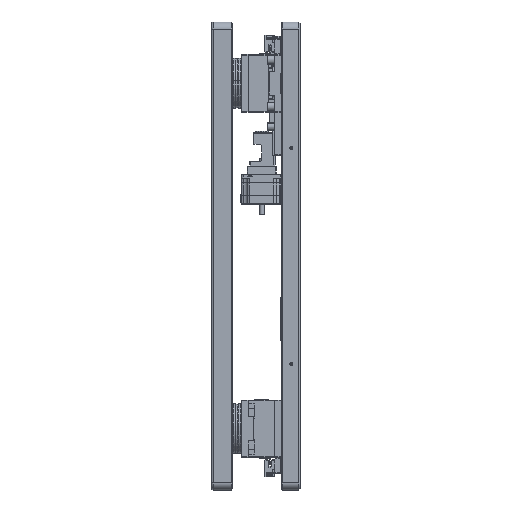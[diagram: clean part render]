
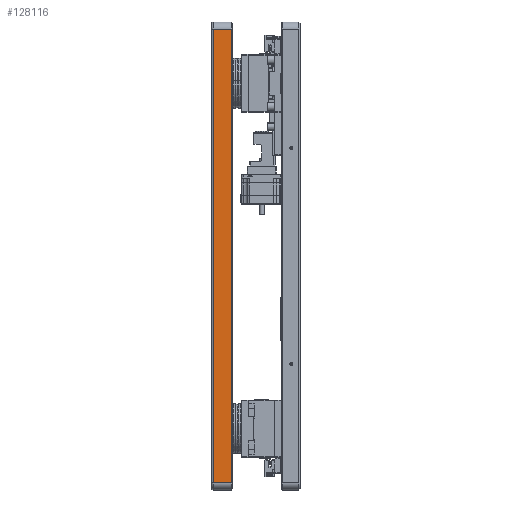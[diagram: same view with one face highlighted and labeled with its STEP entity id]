
A CAD part, left-side view. The second image highlights one B-rep face of the part: STEP entity #128116.
In plain terms, the highlighted planar face has unit normal (-1, 0, 0).
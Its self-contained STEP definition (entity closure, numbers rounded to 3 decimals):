
#7779 = CARTESIAN_POINT ( 'NONE',  ( -350., -2., 315. ) ) ;
#10021 = CARTESIAN_POINT ( 'NONE',  ( -350., -27., 315. ) ) ;
#12291 = DIRECTION ( 'NONE',  ( 0., 1., 0. ) ) ;
#16342 = CARTESIAN_POINT ( 'NONE',  ( -350., -2., 325. ) ) ;
#17598 = EDGE_CURVE ( 'NONE', #59807, #46298, #99883, .T. ) ;
#21068 = FACE_OUTER_BOUND ( 'NONE', #60088, .T. ) ;
#21829 = CARTESIAN_POINT ( 'NONE',  ( -350., -29., 325. ) ) ;
#22324 = CARTESIAN_POINT ( 'NONE',  ( -350., -29., 315. ) ) ;
#23309 = VERTEX_POINT ( 'NONE', #10021 ) ;
#28600 = ORIENTED_EDGE ( 'NONE', *, *, #142942, .T. ) ;
#30133 = LINE ( 'NONE', #16342, #85281 ) ;
#30308 = ORIENTED_EDGE ( 'NONE', *, *, #17598, .T. ) ;
#46298 = VERTEX_POINT ( 'NONE', #99596 ) ;
#47048 = CARTESIAN_POINT ( 'NONE',  ( -350., -2., -315. ) ) ;
#56394 = PLANE ( 'NONE',  #133815 ) ;
#59807 = VERTEX_POINT ( 'NONE', #47048 ) ;
#60030 = VERTEX_POINT ( 'NONE', #7779 ) ;
#60088 = EDGE_LOOP ( 'NONE', ( #30308, #66472, #28600, #85751 ) ) ;
#62303 = CARTESIAN_POINT ( 'NONE',  ( -350., -27., 315. ) ) ;
#62736 = VECTOR ( 'NONE', #12291, 1000. ) ;
#66472 = ORIENTED_EDGE ( 'NONE', *, *, #69774, .T. ) ;
#69774 = EDGE_CURVE ( 'NONE', #46298, #23309, #109814, .T. ) ;
#76980 = DIRECTION ( 'NONE',  ( 0., 0., -1. ) ) ;
#85281 = VECTOR ( 'NONE', #76980, 1000. ) ;
#85751 = ORIENTED_EDGE ( 'NONE', *, *, #93002, .T. ) ;
#93002 = EDGE_CURVE ( 'NONE', #60030, #59807, #30133, .T. ) ;
#99596 = CARTESIAN_POINT ( 'NONE',  ( -350., -27., -315. ) ) ;
#99883 = LINE ( 'NONE', #146704, #137965 ) ;
#103161 = DIRECTION ( 'NONE',  ( 1., 0., 0. ) ) ;
#108308 = DIRECTION ( 'NONE',  ( 0., 0., 1. ) ) ;
#109814 = LINE ( 'NONE', #62303, #135686 ) ;
#112170 = DIRECTION ( 'NONE',  ( 0., -1., 0. ) ) ;
#127453 = LINE ( 'NONE', #22324, #62736 ) ;
#128116 = ADVANCED_FACE ( 'NONE', ( #21068 ), #56394, .F. ) ;
#133815 = AXIS2_PLACEMENT_3D ( 'NONE', #21829, #103161, #151473 ) ;
#135686 = VECTOR ( 'NONE', #108308, 1000. ) ;
#137965 = VECTOR ( 'NONE', #112170, 1000. ) ;
#142942 = EDGE_CURVE ( 'NONE', #23309, #60030, #127453, .T. ) ;
#146704 = CARTESIAN_POINT ( 'NONE',  ( -350., -29., -315. ) ) ;
#151473 = DIRECTION ( 'NONE',  ( 0., 0., 1. ) ) ;
